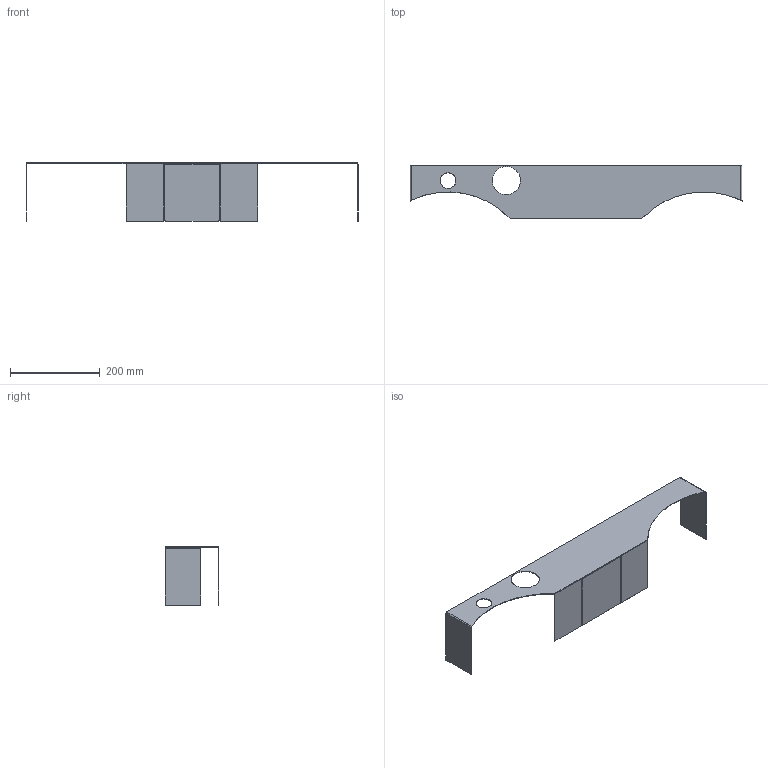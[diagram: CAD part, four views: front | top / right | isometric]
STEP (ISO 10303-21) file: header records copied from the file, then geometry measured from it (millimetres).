
FILE_DESCRIPTION(/* description */ (''),/* implementation_level */ '2;1');
FILE_NAME(/* name */ 'ITMBWSX',/* time_stamp */ '2024-12-16T08:45:19+01:00',/* author */ (''),/* organization */ (''),/* preprocessor_version */ 'ST-DEVELOPER v16.5',/* originating_system */ 'Rhino 7.27',/* authorisation */ '');
FILE_SCHEMA (('CONFIG_CONTROL_DESIGN'));
Length unit declared in the file: millimetre
Products named in the file (1): Document
Bounding box: 739.78 x 120 x 130 mm (x, y, z)
Volume: 55374.9 mm3; surface area: 245304.1 mm2
Topology: 3 solids, 4 shells, 34 faces, 90 edges, 63 vertices
Faces by surface type: plane 26, cylinder 7, bspline 1
Full cylindrical faces by diameter (mm): 35 x1, 63 x1
Entity records: 1058 total; most frequent: CARTESIAN_POINT 385, ORIENTED_EDGE 148, EDGE_CURVE 88, VERTEX_POINT 60, B_SPLINE_CURVE_WITH_KNOTS 59, DIRECTION 41, EDGE_LOOP 38, AXIS2_PLACEMENT_3D 37
